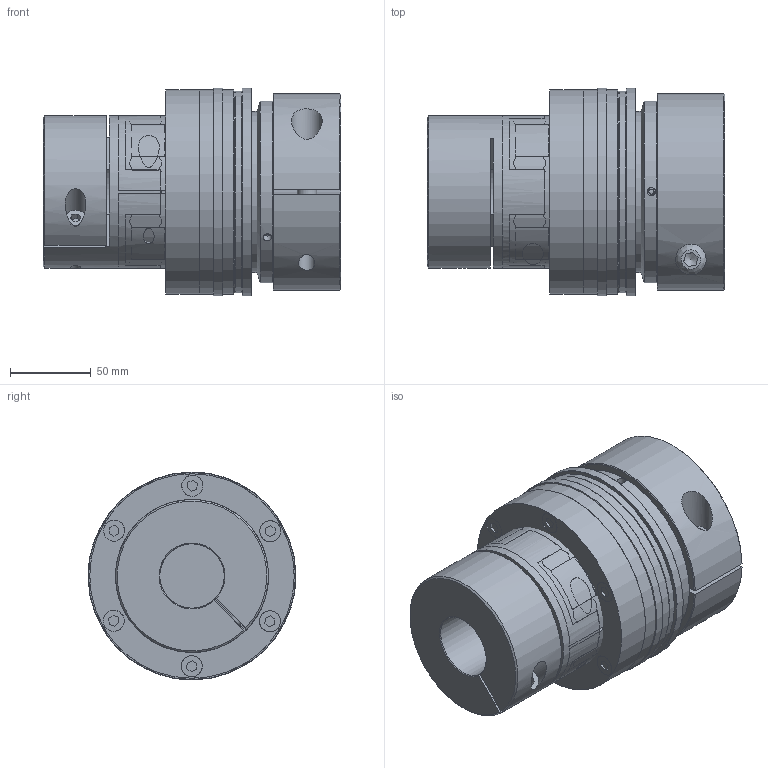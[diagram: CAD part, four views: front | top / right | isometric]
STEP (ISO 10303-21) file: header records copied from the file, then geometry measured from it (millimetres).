
FILE_DESCRIPTION( ( 'Unknown' ), '1' );
FILE_NAME( 'C:/Dokumente und Einstellungen/Sven/Desktop/hp kbk/E-KK/KBK EKK-42.stp', 'Unknown', ( 'Unknown' ), ( 'Unknown' ), 'XStep 1.0', 'Unknown', ' ' );
FILE_SCHEMA( ( 'automotive_design' ) );
Length unit declared in the file: millimetre
Products named in the file (17): Assem1; Assem2; Assem3; ball_bearing_-_6013_0_01; ball_bearing_-_6013_0_02; ball_bearing_-_6013_0_03; Zylinderschraube DIN 912_4; Stellring 500; Druckring 500; Flansch 500; a_65; Elastormerflansch 42; Zahnkranz 42; KBE2-42 Nabe; KBK L-K-500 Grundkörper; Klemmnabe 500; schraube_iso_7380-m12x40-12_9
Bounding box: 184.7 x 129 x 129 mm (x, y, z)
Volume: 3014074.2 mm3; surface area: 673446.1 mm2
Topology: 38 solids, 38 shells, 832 faces, 1900 edges, 1236 vertices
Faces by surface type: cylinder 316, plane 272, cone 211, torus 31, bspline 2
Full cylindrical faces by diameter (mm): 3 x4, 3.242 x6, 5.1 x6, 5.2 x6, 6 x16, 6.647 x14, 8 x9, 8.2 x12, 8.5 x2, 10.106 x2, 12 x2, 12.5 x2, 13 x11, 13.1 x12, 19 x2, 35 x2, 40 x4, 46 x4, 62 x2, 65 x7, 70 x2, 76.3 x6, 86 x4, 89.1 x6, 91 x2, 95 x2, 100 x7, 104.5 x2, 113 x2, 114 x2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
Entity records: 10831 total; most frequent: CARTESIAN_POINT 2653, DIRECTION 1730, ORIENTED_EDGE 1360, AXIS2_PLACEMENT_3D 794, EDGE_CURVE 680, EDGE_LOOP 568, VERTEX_POINT 505, FACE_OUTER_BOUND 447
